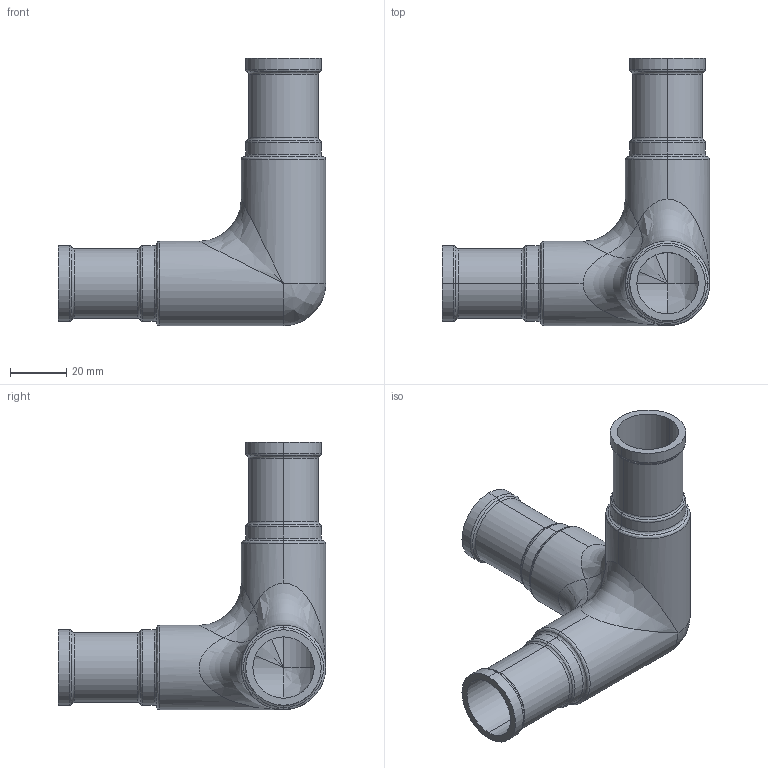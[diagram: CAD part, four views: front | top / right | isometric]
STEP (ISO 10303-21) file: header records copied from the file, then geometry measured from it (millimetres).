
FILE_DESCRIPTION (( 'STEP AP214' ), '1' );
FILE_NAME ('115.301.005.STEP', '2023-06-15T07:41:25', ( '' ), ( '' ), 'SwSTEP 2.0', 'SolidWorks 2021', '' );
FILE_SCHEMA (( 'AUTOMOTIVE_DESIGN' ));
Length unit declared in the file: millimetre
Products named in the file (1): 115.301.005
Bounding box: 95 x 95 x 95 mm (x, y, z)
Volume: 39280.3 mm3; surface area: 36416.6 mm2
Topology: 1 solids, 1 shells, 91 faces, 194 edges, 96 vertices
Faces by surface type: bspline 52, cylinder 36, plane 3
Entity records: 4651 total; most frequent: CARTESIAN_POINT 2881, DIRECTION 372, ORIENTED_EDGE 372, EDGE_CURVE 186, AXIS2_PLACEMENT_3D 168, CIRCLE 128, VERTEX_POINT 96, EDGE_LOOP 94
